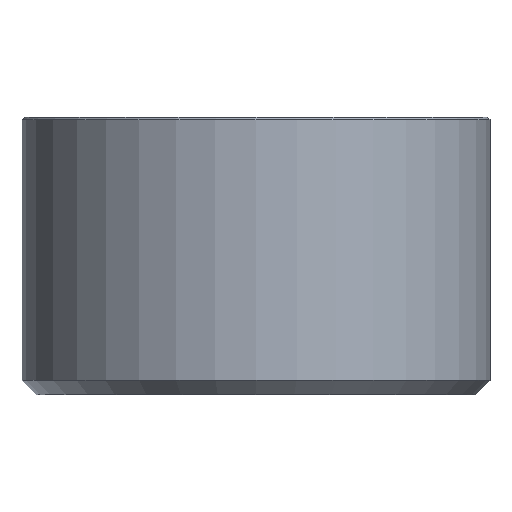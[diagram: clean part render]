
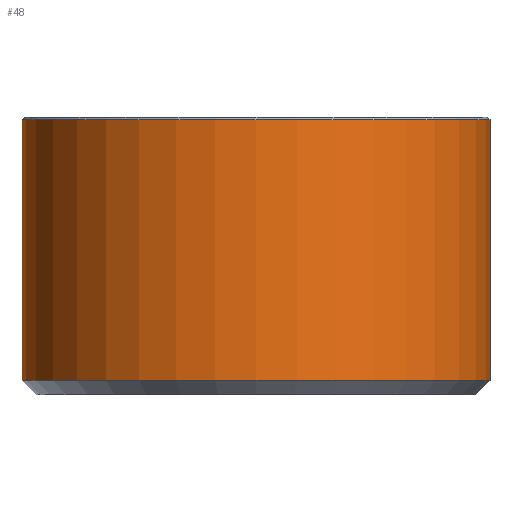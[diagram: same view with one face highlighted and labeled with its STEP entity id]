
A CAD part, front view. The second image highlights one B-rep face of the part: STEP entity #48.
In plain terms, the highlighted cylindrical face has radius 8 mm (diameter 16 mm), a full revolution.
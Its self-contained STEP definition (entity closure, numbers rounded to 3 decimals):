
#48=ADVANCED_FACE('',(#87,#88),#73,.T.);
#73=CYLINDRICAL_SURFACE('',#367,8.);
#87=FACE_BOUND('',#143,.T.);
#88=FACE_BOUND('',#144,.T.);
#143=EDGE_LOOP('',(#199));
#144=EDGE_LOOP('',(#200));
#199=ORIENTED_EDGE('',*,*,#283,.T.);
#200=ORIENTED_EDGE('',*,*,#284,.T.);
#255=VERTEX_POINT('',#539);
#256=VERTEX_POINT('',#541);
#283=EDGE_CURVE('',#255,#255,#317,.T.);
#284=EDGE_CURVE('',#256,#256,#318,.T.);
#317=CIRCLE('',#365,8.);
#318=CIRCLE('',#366,8.);
#365=AXIS2_PLACEMENT_3D('',#538,#430,#431);
#366=AXIS2_PLACEMENT_3D('',#540,#432,#433);
#367=AXIS2_PLACEMENT_3D('',#542,#434,#435);
#430=DIRECTION('',(0.,0.,-1.));
#431=DIRECTION('',(1.,0.,0.));
#432=DIRECTION('',(0.,0.,1.));
#433=DIRECTION('',(1.,0.,0.));
#434=DIRECTION('',(0.,0.,1.));
#435=DIRECTION('',(1.,0.,0.));
#538=CARTESIAN_POINT('',(0.,0.,-0.1));
#539=CARTESIAN_POINT('',(8.,0.,-0.1));
#540=CARTESIAN_POINT('',(0.,0.,-9.));
#541=CARTESIAN_POINT('',(8.,0.,-9.));
#542=CARTESIAN_POINT('',(0.,0.,-9.5));
